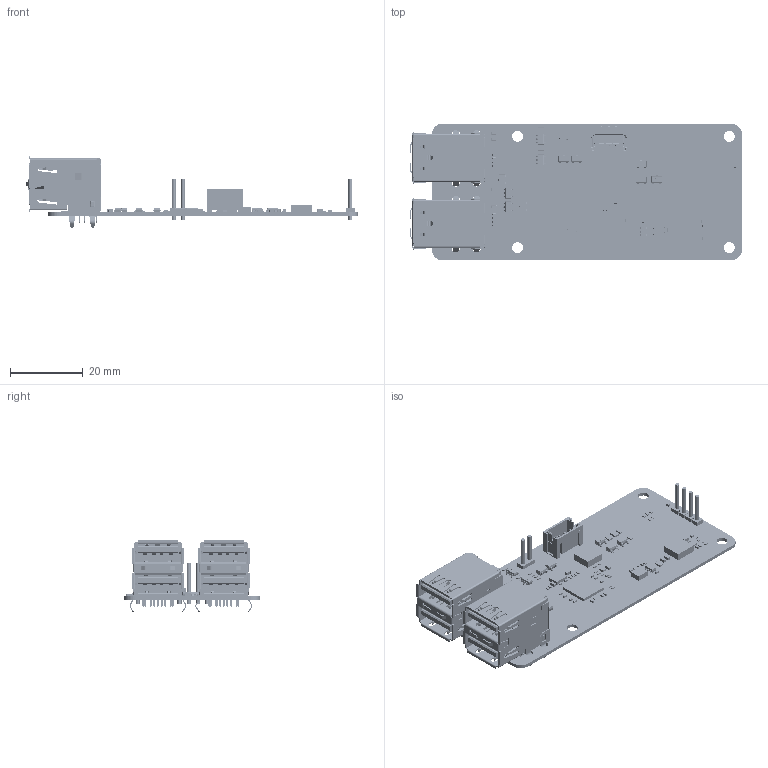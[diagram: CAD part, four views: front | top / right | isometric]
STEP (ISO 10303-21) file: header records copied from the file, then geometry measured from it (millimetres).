
FILE_DESCRIPTION(('Open CASCADE Model'),'2;1');
FILE_NAME('Open CASCADE Shape Model','2024-08-02T14:49:30',('Author'),( 'Open CASCADE'),'Open CASCADE STEP processor 6.5','Open CASCADE 6.5' ,'Unknown');
FILE_SCHEMA(('AUTOMOTIVE_DESIGN { 1 0 10303 214 1 1 1 1 }'));
Length unit declared in the file: millimetre
Products named in the file (207): PCB; Board; R?; R0402; R_0402-5222_AF0_ASM; R_0402-3099_AF0_ASM; _2_1_20001; 5_1_2_A; _7_AF0; LED1; User_Library-LED_0603_R; User_Library-LED_0603_R_Pocket002; User_Library-LED_0603_R_Pad004; User_Library-LED_0603_R_Fillet; User_Library-LED_0603_R_Pocket001; User_Library-LED_0603_R_Pad; R43; U8; SOT23-5-2; SOT23-5-14113_AF0_ASM; SOT23-5AND6_00; SOT23-5-14065_AF0; U7; R35; R0805; R_0805-7019_AF0_ASM; R_0805-6998_AF0_ASM; _2_1_2_3_4_5_6_AF0; _7_1_2_3_4_AF0; 5_1_2_3_4_5_600; R34; R0603; R_0603-3615_AF0_ASM; R_0603-3601_AF0_ASM; _2_1_2_3_4_AF0; _7_1_2_AF0; 5_1_2_3_400; R33; R32; R31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
Assembly tree (303 placements, depth 6):
  PCB
    Board
    R?
      R0402
        R_0402-5222_AF0_ASM
          R_0402-3099_AF0_ASM
            _2_1_20001
            5_1_2_A
            _7_AF0
    LED1
      User_Library-LED_0603_R
        User_Library-LED_0603_R_Pocket002
        User_Library-LED_0603_R_Pad004
        User_Library-LED_0603_R_Fillet
        User_Library-LED_0603_R_Pocket001
        User_Library-LED_0603_R_Pad
    R43
      R0402
        R_0402-5222_AF0_ASM
          R_0402-3099_AF0_ASM
            _2_1_20001
            5_1_2_A
            _7_AF0
    U8
      SOT23-5-2
        SOT23-5-14113_AF0_ASM
          SOT23-5AND6_00  x5
          SOT23-5-14065_AF0
    U7
      SOT23-5-2
        SOT23-5-14113_AF0_ASM
          SOT23-5AND6_00  x5
          SOT23-5-14065_AF0
    R35
      R0805
        R_0805-7019_AF0_ASM
          R_0805-6998_AF0_ASM
            _2_1_2_3_4_5_6_AF0
            _7_1_2_3_4_AF0
            5_1_2_3_4_5_600
    R34
      R0603
        R_0603-3615_AF0_ASM
          R_0603-3601_AF0_ASM
            _2_1_2_3_4_AF0
            _7_1_2_AF0
            5_1_2_3_400
    R33
      R0603
        R_0603-3615_AF0_ASM
          R_0603-3601_AF0_ASM
            _2_1_2_3_4_AF0
            _7_1_2_AF0
            5_1_2_3_400
    R32
      R0603
        R_0603-3615_AF0_ASM
          R_0603-3601_AF0_ASM
            _2_1_2_3_4_AF0
            _7_1_2_AF0
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Bounding box: 90.99 x 37.52 x 19.61 mm (x, y, z)
Volume: 7938.3 mm3; surface area: 25020.1 mm2
Topology: 349 solids, 350 shells, 39623 faces, 104880 edges, 68656 vertices
Faces by surface type: plane 28717, extrusion 6620, cylinder 2869, bspline 733, sphere 524, torus 160
Full cylindrical faces by diameter (mm): 0.7 x36, 0.889 x6, 2.3 x8, 3 x4
Entity records: 540794 total; most frequent: CARTESIAN_POINT 188848, DIRECTION 53656, VECTOR 37868, LINE 37024, ORIENTED_EDGE 34440, PCURVE 34440, DEFINITIONAL_REPRESENTATION 34440, EDGE_CURVE 17221
